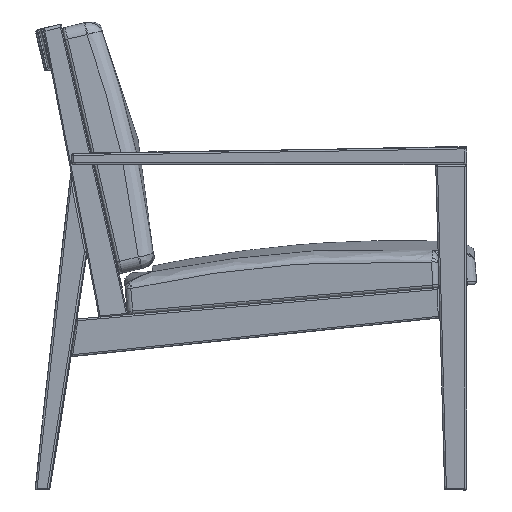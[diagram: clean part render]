
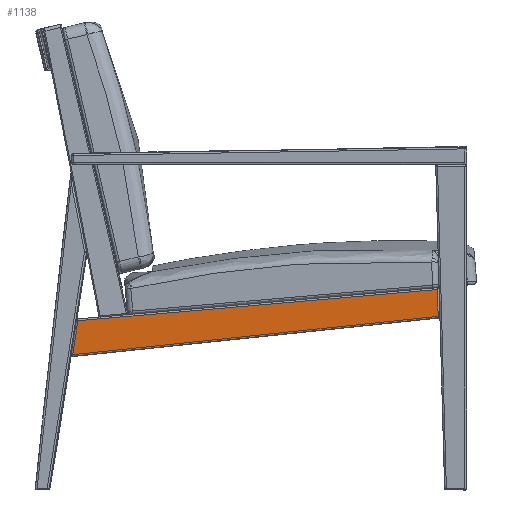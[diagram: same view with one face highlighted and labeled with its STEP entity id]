
A CAD part, left-side view. The second image highlights one B-rep face of the part: STEP entity #1138.
In plain terms, the highlighted planar face has unit normal (-0.996, 0.086, -0.007).
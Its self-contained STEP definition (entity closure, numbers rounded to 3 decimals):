
#1138=ADVANCED_FACE('',(#2308),#16271,.T.);
#2308=FACE_OUTER_BOUND('',#3478,.T.);
#3478=EDGE_LOOP('',(#7632,#7633,#7634,#7635));
#7632=ORIENTED_EDGE('',*,*,#10674,.T.);
#7633=ORIENTED_EDGE('',*,*,#10668,.T.);
#7634=ORIENTED_EDGE('',*,*,#10680,.T.);
#7635=ORIENTED_EDGE('',*,*,#10666,.T.);
#10666=EDGE_CURVE('',#14884,#14881,#13532,.T.);
#10668=EDGE_CURVE('',#14882,#14883,#13533,.T.);
#10674=EDGE_CURVE('',#14881,#14882,#13536,.T.);
#10680=EDGE_CURVE('',#14883,#14884,#13538,.T.);
#13532=B_SPLINE_CURVE_WITH_KNOTS('',3,(#54939,#54940,#54941,#54942),
 .UNSPECIFIED.,.F.,.F.,(4,4),(0.,1.),.UNSPECIFIED.);
#13533=B_SPLINE_CURVE_WITH_KNOTS('',1,(#54946,#54947),.UNSPECIFIED.,.F.,
 .F.,(2,2),(0.,44.039),.UNSPECIFIED.);
#13536=B_SPLINE_CURVE_WITH_KNOTS('',1,(#54961,#54962),.UNSPECIFIED.,.F.,
 .F.,(2,2),(0.,606.517),.UNSPECIFIED.);
#13538=B_SPLINE_CURVE_WITH_KNOTS('',1,(#54977,#54978),.UNSPECIFIED.,.F.,
 .F.,(2,2),(0.,595.656),.UNSPECIFIED.);
#14881=VERTEX_POINT('',#54909);
#14882=VERTEX_POINT('',#54910);
#14883=VERTEX_POINT('',#54911);
#14884=VERTEX_POINT('',#54912);
#16271=PLANE('',#16545);
#16545=AXIS2_PLACEMENT_3D('',#54526,#16752,$);
#16752=DIRECTION('',(-0.996,0.086,-0.007));
#54526=CARTESIAN_POINT('',(-251.454,-1.683,211.298));
#54909=CARTESIAN_POINT('',(-256.725,-61.777,222.484));
#54910=CARTESIAN_POINT('',(-309.078,-662.717,285.678));
#54911=CARTESIAN_POINT('',(-309.311,-661.584,329.702));
#54912=CARTESIAN_POINT('',(-257.887,-70.379,278.34));
#54939=CARTESIAN_POINT('',(-257.887,-70.379,278.34));
#54940=CARTESIAN_POINT('',(-257.488,-67.434,259.076));
#54941=CARTESIAN_POINT('',(-257.101,-64.567,240.458));
#54942=CARTESIAN_POINT('',(-256.725,-61.777,222.484));
#54946=CARTESIAN_POINT('',(-309.078,-662.717,285.678));
#54947=CARTESIAN_POINT('',(-309.311,-661.584,329.702));
#54961=CARTESIAN_POINT('',(-256.725,-61.777,222.484));
#54962=CARTESIAN_POINT('',(-309.078,-662.717,285.678));
#54977=CARTESIAN_POINT('',(-309.311,-661.584,329.702));
#54978=CARTESIAN_POINT('',(-257.887,-70.379,278.34));
